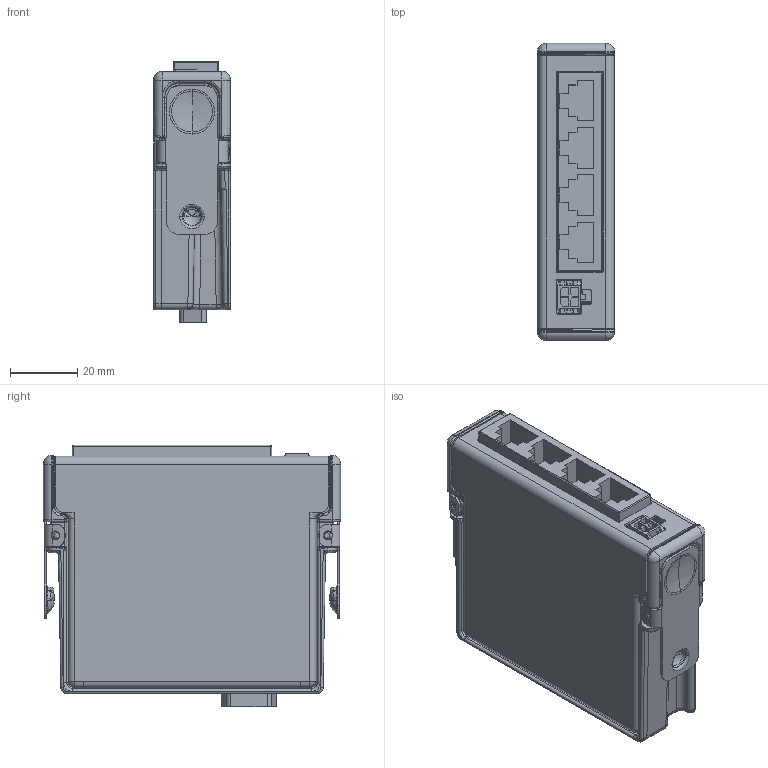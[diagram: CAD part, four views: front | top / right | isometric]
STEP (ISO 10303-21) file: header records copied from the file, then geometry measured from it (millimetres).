
FILE_DESCRIPTION((''),'2;1');
FILE_NAME('CART_CRIO_RJ_50_LVL6','2007-01-24T',('chrisj'),(''),'PRO/ENGINEER BY PARAMETRIC TECHNOLOGY CORPORATION, 2006080','PRO/ENGINEER BY PARAMETRIC TECHNOLOGY CORPORATION, 2006080','');
FILE_SCHEMA(('AUTOMOTIVE_DESIGN_CC2 { 1 2 10303 214 -1 1 5 2 }'));
Products named in the file (1): CART_CRIO_RJ_50_LVL6
Bounding box: 22.86 x 88.11 x 77.5 mm (x, y, z)
Volume: 48730.5 mm3; surface area: 48253.6 mm2
Topology: 10 solids, 10 shells, 1685 faces, 4110 edges, 2439 vertices
Faces by surface type: plane 655, cylinder 530, bspline 365, torus 58, sphere 47, cone 24, extrusion 6
Entity records: 69068 total; most frequent: CARTESIAN_POINT 32448, ORIENTED_EDGE 8072, DIRECTION 6811, EDGE_CURVE 4036, VERTEX_POINT 2477, AXIS2_PLACEMENT_3D 2365, VECTOR 2081, LINE 2075
